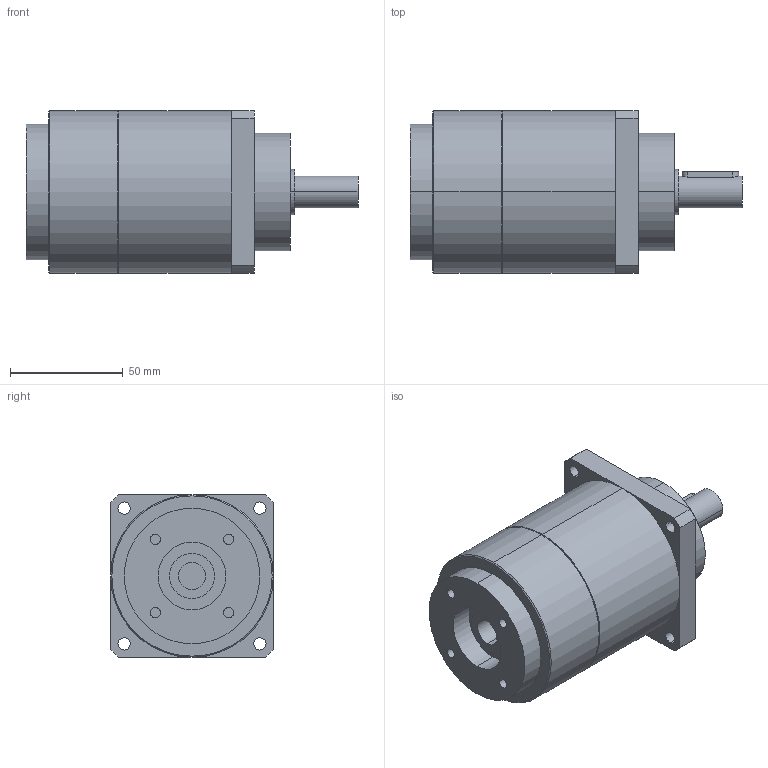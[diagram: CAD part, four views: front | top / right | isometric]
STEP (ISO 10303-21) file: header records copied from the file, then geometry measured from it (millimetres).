
FILE_DESCRIPTION(('CoCreate Modeling STEP Export'),'2;1');
FILE_NAME('GPT75_ig-9-12-16-20-25-28-35-40-50-70-100_14_B5T_12_P21.stp','2014-08-27T13:37:19',(''),(''),'CoCreate Modeling STEP processor for AP214 (Solid Model)','CoCreate Modeling 16.00C 25-Feb-2009 (C) Parametric Technology GmbH','');
FILE_SCHEMA(('AUTOMOTIVE_DESIGN { 1 0 10303 214 1 1 1 1 }'));
Length unit declared in the file: millimetre
Products named in the file (2): GPT75_ig-9-12-16-20-25-28-35-40-50-70-100_14_B5T_12_P21
Assembly tree (1 placements, depth 2):
  GPT75_ig-9-12-16-20-25-28-35-40-50-70-100_14_B5T_12_P21
    GPT75_ig-9-12-16-20-25-28-35-40-50-70-100_14_B5T_12_P21
Bounding box: 147 x 72 x 72 mm (x, y, z)
Volume: 437377.7 mm3; surface area: 41142.6 mm2
Topology: 1 solids, 1 shells, 72 faces, 170 edges, 113 vertices
Faces by surface type: cylinder 42, plane 26, cone 4
Entity records: 2201 total; most frequent: CARTESIAN_POINT 669, ORIENTED_EDGE 340, DIRECTION 268, EDGE_CURVE 170, VERTEX_POINT 113, AXIS2_PLACEMENT_3D 100, EDGE_LOOP 93, FACE_OUTER_BOUND 72
